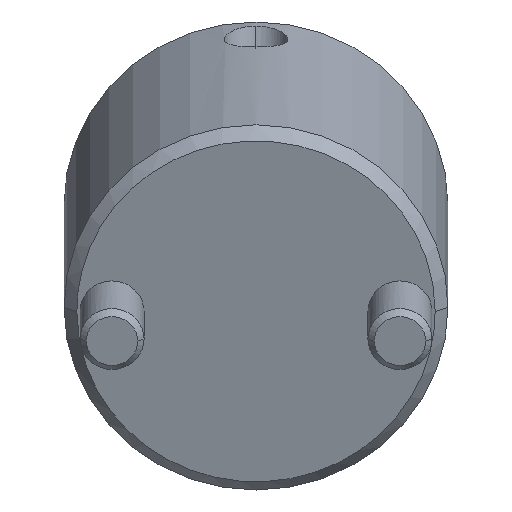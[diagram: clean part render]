
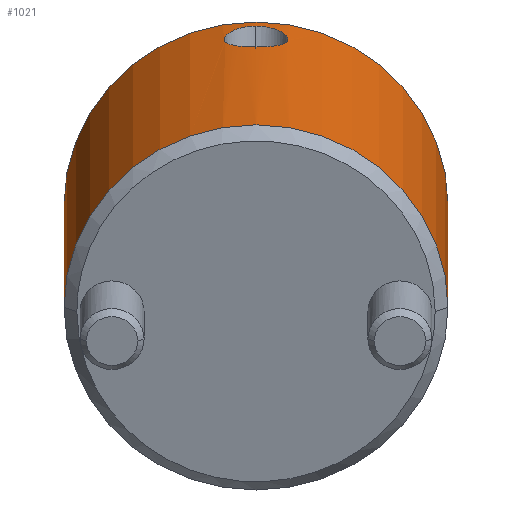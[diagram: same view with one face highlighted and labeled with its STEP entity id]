
A CAD part, front view. The second image highlights one B-rep face of the part: STEP entity #1021.
In plain terms, the highlighted cylindrical face has radius 15 mm (diameter 30 mm), a partial arc.
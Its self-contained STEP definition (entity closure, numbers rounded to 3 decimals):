
#778=CARTESIAN_POINT('Vertex',(0.,15.,1.)) ;
#781=CARTESIAN_POINT('Axis2P3D Location',(0.,0.,1.)) ;
#785=CARTESIAN_POINT('Vertex',(0.,-15.,1.)) ;
#925=CARTESIAN_POINT('Axis2P3D Location',(0.,0.,-1.4)) ;
#930=CARTESIAN_POINT('Line Origine',(0.,15.,-1.4)) ;
#934=CARTESIAN_POINT('Vertex',(0.,15.,27.)) ;
#937=CARTESIAN_POINT('Axis2P3D Location',(0.,0.,27.)) ;
#941=CARTESIAN_POINT('Vertex',(0.,-15.,27.)) ;
#944=CARTESIAN_POINT('Line Origine',(0.,-15.,-1.4)) ;
#956=CARTESIAN_POINT('Control Point',(15.,0.,25.963)) ;
#957=CARTESIAN_POINT('Control Point',(15.,0.072,25.963)) ;
#958=CARTESIAN_POINT('Control Point',(15.,0.144,25.96)) ;
#959=CARTESIAN_POINT('Control Point',(14.999,0.216,25.954)) ;
#960=CARTESIAN_POINT('Control Point',(14.995,0.433,25.928)) ;
#961=CARTESIAN_POINT('Control Point',(14.987,0.648,25.875)) ;
#962=CARTESIAN_POINT('Control Point',(14.98,0.796,25.826)) ;
#963=CARTESIAN_POINT('Control Point',(14.963,1.075,25.708)) ;
#964=CARTESIAN_POINT('Control Point',(14.942,1.329,25.549)) ;
#965=CARTESIAN_POINT('Control Point',(14.93,1.455,25.457)) ;
#966=CARTESIAN_POINT('Control Point',(14.893,1.81,25.154)) ;
#967=CARTESIAN_POINT('Control Point',(14.854,2.099,24.769)) ;
#968=CARTESIAN_POINT('Control Point',(14.83,2.256,24.479)) ;
#969=CARTESIAN_POINT('Control Point',(14.802,2.428,24.014)) ;
#970=CARTESIAN_POINT('Control Point',(14.791,2.495,23.524)) ;
#971=CARTESIAN_POINT('Control Point',(14.789,2.505,23.361)) ;
#972=CARTESIAN_POINT('Control Point',(14.79,2.502,22.958)) ;
#973=CARTESIAN_POINT('Control Point',(14.803,2.425,22.566)) ;
#974=CARTESIAN_POINT('Control Point',(14.815,2.354,22.34)) ;
#975=CARTESIAN_POINT('Control Point',(14.84,2.194,21.981)) ;
#976=CARTESIAN_POINT('Control Point',(14.87,1.971,21.663)) ;
#977=CARTESIAN_POINT('Control Point',(14.883,1.872,21.543)) ;
#978=CARTESIAN_POINT('Control Point',(14.909,1.66,21.323)) ;
#979=CARTESIAN_POINT('Control Point',(14.934,1.417,21.138)) ;
#980=CARTESIAN_POINT('Control Point',(14.945,1.288,21.055)) ;
#981=CARTESIAN_POINT('Control Point',(14.971,0.971,20.883)) ;
#982=CARTESIAN_POINT('Control Point',(14.989,0.619,20.77)) ;
#983=CARTESIAN_POINT('Control Point',(14.996,0.412,20.725)) ;
#984=CARTESIAN_POINT('Control Point',(15.,0.206,20.705)) ;
#985=CARTESIAN_POINT('Control Point',(15.,0.,20.705)) ;
#986=CARTESIAN_POINT('Vertex',(15.,0.,25.963)) ;
#988=CARTESIAN_POINT('Vertex',(15.,0.,20.705)) ;
#992=CARTESIAN_POINT('Control Point',(15.,0.,20.705)) ;
#993=CARTESIAN_POINT('Control Point',(15.,-0.15,20.705)) ;
#994=CARTESIAN_POINT('Control Point',(14.998,-0.3,20.716)) ;
#995=CARTESIAN_POINT('Control Point',(14.994,-0.45,20.739)) ;
#996=CARTESIAN_POINT('Control Point',(14.983,-0.751,20.809)) ;
#997=CARTESIAN_POINT('Control Point',(14.965,-1.039,20.923)) ;
#998=CARTESIAN_POINT('Control Point',(14.955,-1.174,20.99)) ;
#999=CARTESIAN_POINT('Control Point',(14.91,-1.702,21.304)) ;
#1000=CARTESIAN_POINT('Control Point',(14.854,-2.12,21.77)) ;
#1001=CARTESIAN_POINT('Control Point',(14.816,-2.349,22.194)) ;
#1002=CARTESIAN_POINT('Control Point',(14.787,-2.518,22.82)) ;
#1003=CARTESIAN_POINT('Control Point',(14.79,-2.5,23.466)) ;
#1004=CARTESIAN_POINT('Control Point',(14.793,-2.483,23.63)) ;
#1005=CARTESIAN_POINT('Control Point',(14.805,-2.412,24.035)) ;
#1006=CARTESIAN_POINT('Control Point',(14.828,-2.269,24.42)) ;
#1007=CARTESIAN_POINT('Control Point',(14.845,-2.159,24.642)) ;
#1008=CARTESIAN_POINT('Control Point',(14.881,-1.898,25.047)) ;
#1009=CARTESIAN_POINT('Control Point',(14.92,-1.564,25.378)) ;
#1010=CARTESIAN_POINT('Control Point',(14.938,-1.379,25.525)) ;
#1011=CARTESIAN_POINT('Control Point',(14.969,-1.015,25.753)) ;
#1012=CARTESIAN_POINT('Control Point',(14.99,-0.599,25.895)) ;
#1013=CARTESIAN_POINT('Control Point',(14.997,-0.399,25.941)) ;
#1014=CARTESIAN_POINT('Control Point',(15.,-0.2,25.963)) ;
#1015=CARTESIAN_POINT('Control Point',(15.,0.,25.963)) ;
#782=DIRECTION('Axis2P3D Direction',(0.,0.,1.)) ;
#926=DIRECTION('Axis2P3D Direction',(0.,-0.,1.)) ;
#927=DIRECTION('Axis2P3D XDirection',(0.,-1.,0.)) ;
#931=DIRECTION('Vector Direction',(0.,0.,1.)) ;
#938=DIRECTION('Axis2P3D Direction',(0.,-0.,1.)) ;
#945=DIRECTION('Vector Direction',(0.,0.,1.)) ;
#783=AXIS2_PLACEMENT_3D('Circle Axis2P3D',#781,#782,$) ;
#928=AXIS2_PLACEMENT_3D('Cylinder Axis2P3D',#925,#926,#927) ;
#939=AXIS2_PLACEMENT_3D('Circle Axis2P3D',#937,#938,$) ;
#950=ORIENTED_EDGE('',*,*,#936,.F.) ;
#951=ORIENTED_EDGE('',*,*,#943,.T.) ;
#952=ORIENTED_EDGE('',*,*,#948,.T.) ;
#953=ORIENTED_EDGE('',*,*,#787,.F.) ;
#1018=ORIENTED_EDGE('',*,*,#990,.T.) ;
#1019=ORIENTED_EDGE('',*,*,#1016,.T.) ;
#1020=FACE_BOUND('',#1017,.T.) ;
#932=VECTOR('Line Direction',#931,1.) ;
#946=VECTOR('Line Direction',#945,1.) ;
#1021=ADVANCED_FACE('MANIFOLD_SOLID_BREP #1110',(#954,#1020),#929,.T.) ;
#955=B_SPLINE_CURVE_WITH_KNOTS('',5,(#956,#957,#958,#959,#960,#961,#962,#963,#964,#965,#966,#967,#968,#969,#970,#971,#972,#973,#974,#975,#976,#977,#978,#979,#980,#981,#982,#983,#984,#985),.UNSPECIFIED.,.F.,.U.,(6,3,3,3,3,3,3,3,3,6),(0.,0.524,1.591,2.694,4.954,6.072,7.732,8.831,9.918,11.413),.UNSPECIFIED.) ;
#991=B_SPLINE_CURVE_WITH_KNOTS('',5,(#992,#993,#994,#995,#996,#997,#998,#999,#1000,#1001,#1002,#1003,#1004,#1005,#1006,#1007,#1008,#1009,#1010,#1011,#1012,#1013,#1014,#1015),.UNSPECIFIED.,.F.,.U.,(6,3,3,3,3,3,3,6),(0.,1.098,2.193,5.511,6.631,8.322,9.968,11.415),.UNSPECIFIED.) ;
#784=CIRCLE('generated circle',#783,15.) ;
#940=CIRCLE('generated circle',#939,15.) ;
#929=CYLINDRICAL_SURFACE('generated cylinder',#928,15.) ;
#787=EDGE_CURVE('',#779,#786,#784,.F.) ;
#936=EDGE_CURVE('',#935,#779,#933,.F.) ;
#943=EDGE_CURVE('',#935,#942,#940,.F.) ;
#948=EDGE_CURVE('',#942,#786,#947,.F.) ;
#990=EDGE_CURVE('',#987,#989,#955,.T.) ;
#1016=EDGE_CURVE('',#989,#987,#991,.T.) ;
#949=EDGE_LOOP('',(#950,#951,#952,#953)) ;
#1017=EDGE_LOOP('',(#1018,#1019)) ;
#954=FACE_OUTER_BOUND('',#949,.T.) ;
#933=LINE('Line',#930,#932) ;
#947=LINE('Line',#944,#946) ;
#779=VERTEX_POINT('',#778) ;
#786=VERTEX_POINT('',#785) ;
#935=VERTEX_POINT('',#934) ;
#942=VERTEX_POINT('',#941) ;
#987=VERTEX_POINT('',#986) ;
#989=VERTEX_POINT('',#988) ;
